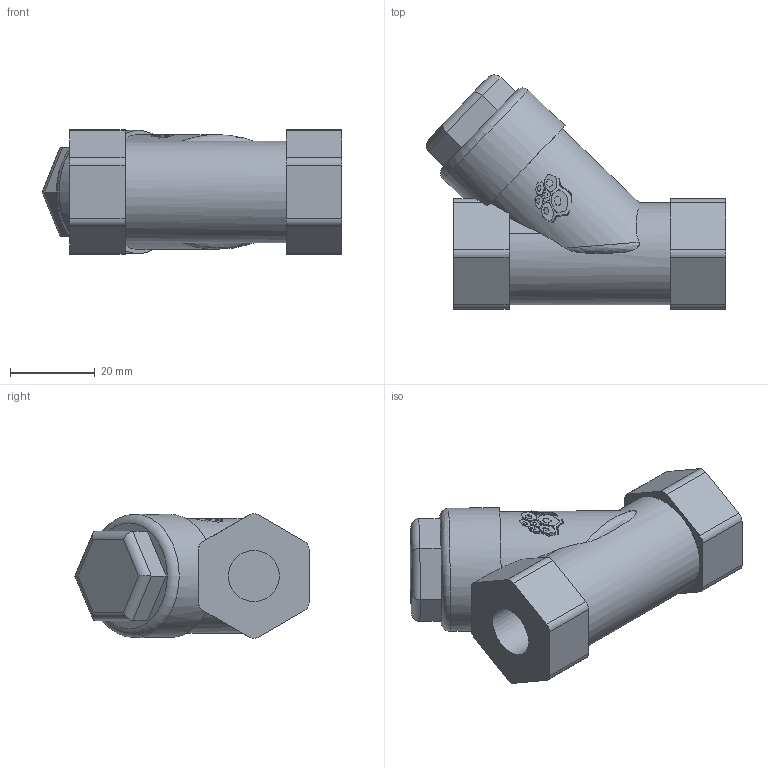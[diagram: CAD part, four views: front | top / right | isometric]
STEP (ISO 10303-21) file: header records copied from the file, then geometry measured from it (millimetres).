
FILE_DESCRIPTION(('STEP AP203'), '1');
FILE_NAME('3D_6460-010-40', '', ('UNSPECIFIED'), ('UNSPECIFIED'), 'C3D Converter', 'C3D Toolkit', '');
FILE_SCHEMA(('CONFIG_CONTROL_DESIGN'));
Length unit declared in the file: millimetre
Bounding box: 70.47 x 55.12 x 29.4 mm (x, y, z)
Volume: 49404 mm3; surface area: 10361.1 mm2
Topology: 1 solids, 1 shells, 881 faces, 2580 edges, 1719 vertices
Faces by surface type: plane 848, cylinder 30, bspline 2, torus 1
Full cylindrical faces by diameter (mm): 12 x2, 24 x1, 29 x1
Entity records: 37314 total; most frequent: CARTESIAN_POINT 9167, ORIENTED_EDGE 5150, DIRECTION 3555, EDGE_CURVE 2575, VERTEX_POINT 1719, LINE 1717, VECTOR 1717, AXIS2_PLACEMENT_3D 919
